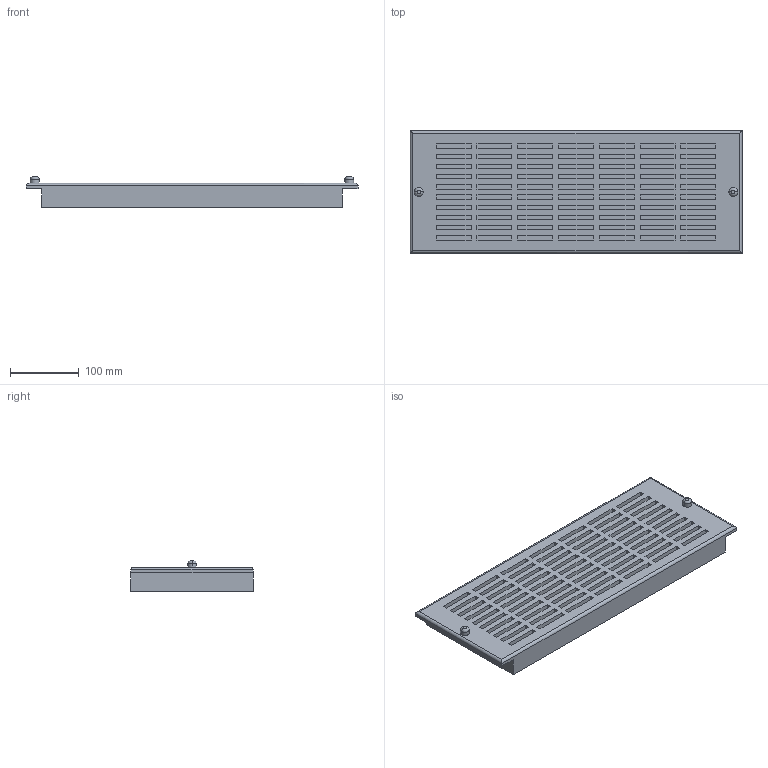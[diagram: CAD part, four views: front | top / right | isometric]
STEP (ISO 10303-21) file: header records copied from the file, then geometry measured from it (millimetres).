
FILE_DESCRIPTION (( 'STEP AP203' ), '1' );
FILE_NAME ('7g19.STEP', '2013-07-23T13:30:14', ( 'User' ), ( 'Pentair Inc' ), 'SwSTEP 2.0', 'SolidWorks 2010', '' );
FILE_SCHEMA (( 'CONFIG_CONTROL_DESIGN' ));
Length unit declared in the file: inch
Products named in the file (1): 7g19
Bounding box: 482.6 x 177.8 x 44.32 mm (x, y, z)
Volume: 2582210.2 mm3; surface area: 278599.5 mm2
Topology: 1 solids, 1 shells, 374 faces, 892 edges, 592 vertices
Faces by surface type: plane 362, cylinder 8, torus 4
Entity records: 10667 total; most frequent: CARTESIAN_POINT 1871, ORIENTED_EDGE 1784, DIRECTION 1654, EDGE_CURVE 892, LINE 872, VECTOR 872, VERTEX_POINT 592, EDGE_LOOP 446
